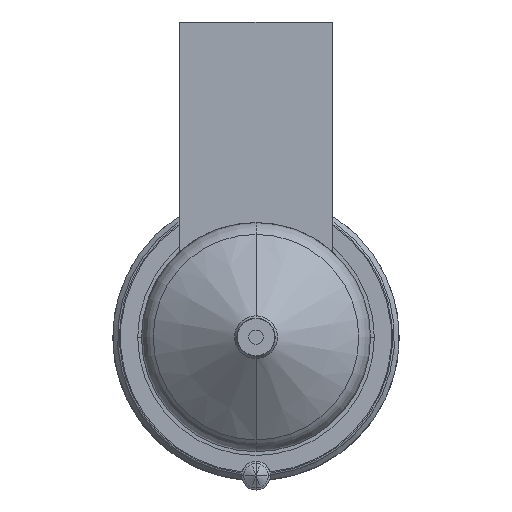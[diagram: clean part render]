
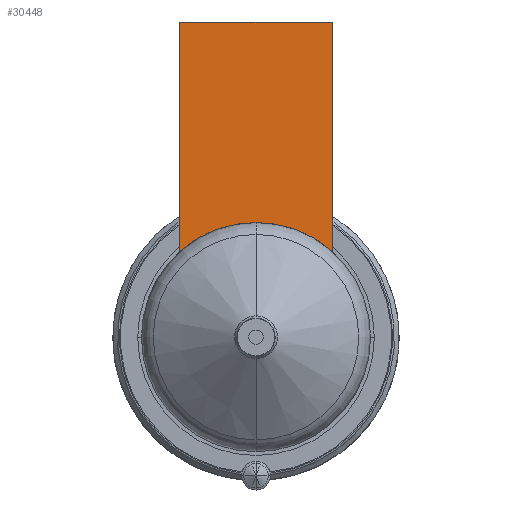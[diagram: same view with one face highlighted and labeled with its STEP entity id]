
A CAD part, front view. The second image highlights one B-rep face of the part: STEP entity #30448.
In plain terms, the highlighted planar face has unit normal (0, -1, 0).
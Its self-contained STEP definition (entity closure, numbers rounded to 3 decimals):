
#29762=DIRECTION('',(0.,0.,-1.));
#29763=VECTOR('',#29762,24.056);
#29764=CARTESIAN_POINT('',(-8.,-56.,33.));
#29765=LINE('',#29764,#29763);
#29802=DIRECTION('',(1.,0.,0.));
#29803=VECTOR('',#29802,16.);
#29804=CARTESIAN_POINT('',(-8.,-56.,33.));
#29805=LINE('',#29804,#29803);
#29809=CARTESIAN_POINT('',(0.,-56.,0.));
#29810=DIRECTION('',(0.,-1.,0.));
#29811=DIRECTION('',(0.667,0.,0.745));
#29812=AXIS2_PLACEMENT_3D('',#29809,#29810,#29811);
#29817=CARTESIAN_POINT('',(0.,-56.,0.));
#29818=DIRECTION('',(0.,-1.,0.));
#29819=DIRECTION('',(0.,0.,1.));
#29820=AXIS2_PLACEMENT_3D('',#29817,#29818,#29819);
#29853=DIRECTION('',(0.,0.,-1.));
#29854=VECTOR('',#29853,24.056);
#29855=CARTESIAN_POINT('',(8.,-56.,33.));
#29856=LINE('',#29855,#29854);
#30312=CARTESIAN_POINT('',(-8.,-56.,33.));
#30313=VERTEX_POINT('',#30312);
#30318=CARTESIAN_POINT('',(8.,-56.,33.));
#30319=VERTEX_POINT('',#30318);
#30322=CARTESIAN_POINT('',(-8.,-56.,8.944));
#30323=VERTEX_POINT('',#30322);
#30326=CARTESIAN_POINT('',(8.,-56.,8.944));
#30327=VERTEX_POINT('',#30326);
#30367=CARTESIAN_POINT('',(0.,-56.,12.));
#30368=VERTEX_POINT('',#30367);
#30433=CARTESIAN_POINT('',(-8.,-56.,33.));
#30434=DIRECTION('',(0.,-1.,0.));
#30435=DIRECTION('',(0.,0.,-1.));
#30436=AXIS2_PLACEMENT_3D('',#30433,#30434,#30435);
#30437=PLANE('',#30436);
#30438=ORIENTED_EDGE('',*,*,#30381,.F.);
#30440=ORIENTED_EDGE('',*,*,#30439,.T.);
#30442=ORIENTED_EDGE('',*,*,#30441,.T.);
#30444=ORIENTED_EDGE('',*,*,#30443,.T.);
#30445=ORIENTED_EDGE('',*,*,#30413,.T.);
#30446=EDGE_LOOP('',(#30438,#30440,#30442,#30444,#30445));
#30447=FACE_OUTER_BOUND('',#30446,.F.);
#30448=ADVANCED_FACE('',(#30447),#30437,.T.);
#29813=CIRCLE('',#29812,12.);
#29821=CIRCLE('',#29820,12.);
#30381=EDGE_CURVE('',#30313,#30323,#29765,.T.);
#30413=EDGE_CURVE('',#30368,#30323,#29821,.T.);
#30439=EDGE_CURVE('',#30313,#30319,#29805,.T.);
#30441=EDGE_CURVE('',#30319,#30327,#29856,.T.);
#30443=EDGE_CURVE('',#30327,#30368,#29813,.T.);
